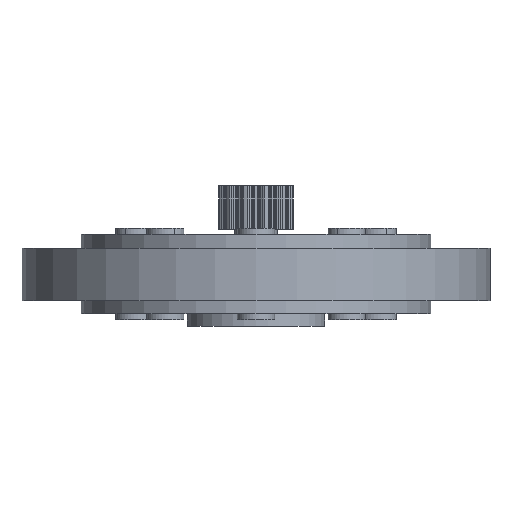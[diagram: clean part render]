
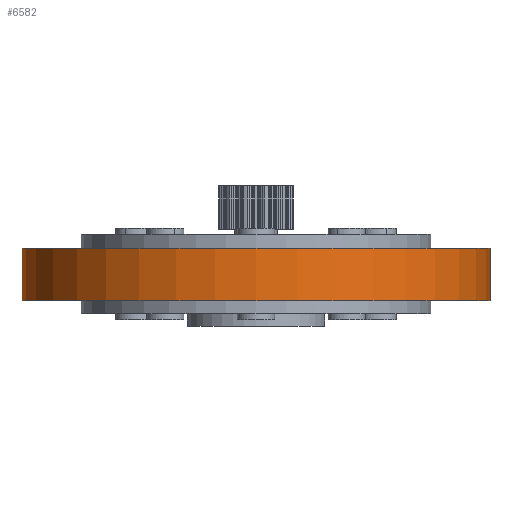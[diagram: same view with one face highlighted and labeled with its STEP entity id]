
A CAD part, front view. The second image highlights one B-rep face of the part: STEP entity #6582.
In plain terms, the highlighted cylindrical face has radius 37.5 mm (diameter 75 mm), a partial arc.
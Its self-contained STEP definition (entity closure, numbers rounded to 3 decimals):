
#630 = LINE ( 'NONE', #7329, #7116 ) ;
#870 = DIRECTION ( 'NONE',  ( 0., 0., 1. ) ) ;
#1159 = CARTESIAN_POINT ( 'NONE',  ( 0., 0., 4.2 ) ) ;
#1602 = DIRECTION ( 'NONE',  ( 1., 0., 0. ) ) ;
#1620 = AXIS2_PLACEMENT_3D ( 'NONE', #13698, #11469, #1602 ) ;
#1688 = VERTEX_POINT ( 'NONE', #11650 ) ;
#2790 = LINE ( 'NONE', #12103, #7388 ) ;
#3779 = CARTESIAN_POINT ( 'NONE',  ( -37.5, 0., 4.2 ) ) ;
#4636 = AXIS2_PLACEMENT_3D ( 'NONE', #1159, #870, #13113 ) ;
#4828 = ORIENTED_EDGE ( 'NONE', *, *, #6581, .F. ) ;
#4988 = DIRECTION ( 'NONE',  ( 0., 0., -1. ) ) ;
#6253 = CIRCLE ( 'NONE', #4636, 37.5 ) ;
#6581 = EDGE_CURVE ( 'NONE', #9445, #8692, #630, .T. ) ;
#6582 = ADVANCED_FACE ( 'NONE', ( #12790 ), #10632, .T. ) ;
#6632 = CIRCLE ( 'NONE', #1620, 37.5 ) ;
#7116 = VECTOR ( 'NONE', #4988, 1000. ) ;
#7329 = CARTESIAN_POINT ( 'NONE',  ( 37.5, 0., 4.2 ) ) ;
#7388 = VECTOR ( 'NONE', #12507, 1000. ) ;
#8692 = VERTEX_POINT ( 'NONE', #9523 ) ;
#8741 = EDGE_CURVE ( 'NONE', #10475, #9445, #6253, .T. ) ;
#8922 = EDGE_CURVE ( 'NONE', #10475, #1688, #2790, .T. ) ;
#9182 = ORIENTED_EDGE ( 'NONE', *, *, #13992, .T. ) ;
#9329 = CARTESIAN_POINT ( 'NONE',  ( 37.5, 0., 4.2 ) ) ;
#9332 = ORIENTED_EDGE ( 'NONE', *, *, #8741, .F. ) ;
#9342 = DIRECTION ( 'NONE',  ( 0., 0., -1. ) ) ;
#9445 = VERTEX_POINT ( 'NONE', #9329 ) ;
#9523 = CARTESIAN_POINT ( 'NONE',  ( 37.5, 0., -4.2 ) ) ;
#10475 = VERTEX_POINT ( 'NONE', #3779 ) ;
#10591 = ORIENTED_EDGE ( 'NONE', *, *, #8922, .T. ) ;
#10632 = CYLINDRICAL_SURFACE ( 'NONE', #12624, 37.5 ) ;
#11099 = EDGE_LOOP ( 'NONE', ( #4828, #9332, #10591, #9182 ) ) ;
#11469 = DIRECTION ( 'NONE',  ( 0., 0., 1. ) ) ;
#11650 = CARTESIAN_POINT ( 'NONE',  ( -37.5, 0., -4.2 ) ) ;
#12103 = CARTESIAN_POINT ( 'NONE',  ( -37.5, 0., 4.2 ) ) ;
#12507 = DIRECTION ( 'NONE',  ( 0., 0., -1. ) ) ;
#12624 = AXIS2_PLACEMENT_3D ( 'NONE', #13795, #9342, #13726 ) ;
#12790 = FACE_OUTER_BOUND ( 'NONE', #11099, .T. ) ;
#13113 = DIRECTION ( 'NONE',  ( 1., 0., 0. ) ) ;
#13698 = CARTESIAN_POINT ( 'NONE',  ( 0., 0., -4.2 ) ) ;
#13726 = DIRECTION ( 'NONE',  ( -1., 0., 0. ) ) ;
#13795 = CARTESIAN_POINT ( 'NONE',  ( 0., 0., 4.2 ) ) ;
#13992 = EDGE_CURVE ( 'NONE', #1688, #8692, #6632, .T. ) ;
